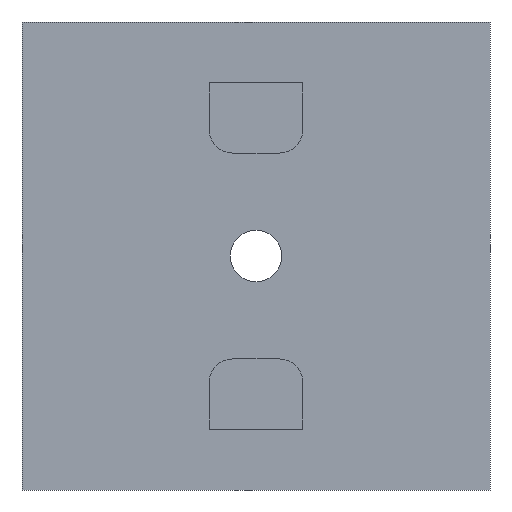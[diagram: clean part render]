
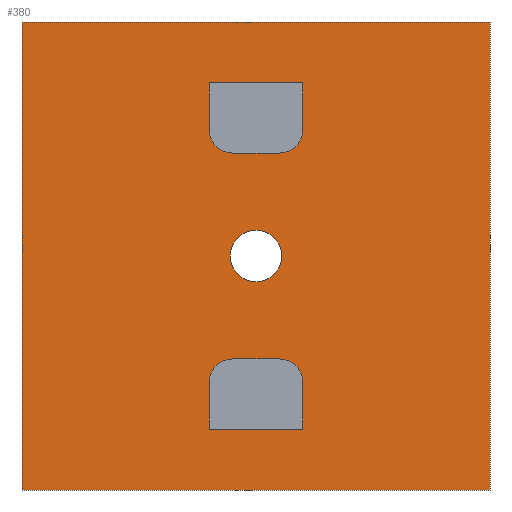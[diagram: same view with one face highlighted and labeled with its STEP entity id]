
A CAD part, front view. The second image highlights one B-rep face of the part: STEP entity #380.
In plain terms, the highlighted planar face has unit normal (0, -1, 0).
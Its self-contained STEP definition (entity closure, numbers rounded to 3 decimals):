
#15=FACE_BOUND('',#72,.T.);
#16=FACE_BOUND('',#73,.T.);
#17=FACE_BOUND('',#74,.T.);
#29=PLANE('',#425);
#50=FACE_OUTER_BOUND('',#71,.T.);
#71=EDGE_LOOP('',(#322,#323,#324,#325));
#72=EDGE_LOOP('',(#326,#327,#328,#329,#330,#331));
#73=EDGE_LOOP('',(#332,#333,#334,#335,#336,#337));
#74=EDGE_LOOP('',(#338));
#85=LINE('',#551,#126);
#91=LINE('',#568,#132);
#97=LINE('',#584,#138);
#102=LINE('',#599,#143);
#105=LINE('',#604,#146);
#106=LINE('',#606,#147);
#107=LINE('',#608,#148);
#108=LINE('',#610,#149);
#110=LINE('',#620,#151);
#111=LINE('',#622,#152);
#112=LINE('',#624,#153);
#113=LINE('',#625,#154);
#126=VECTOR('',#445,10.);
#132=VECTOR('',#461,10.);
#138=VECTOR('',#475,10.);
#143=VECTOR('',#490,10.);
#146=VECTOR('',#495,10.);
#147=VECTOR('',#498,10.);
#148=VECTOR('',#501,10.);
#149=VECTOR('',#504,10.);
#151=VECTOR('',#514,10.);
#152=VECTOR('',#515,10.);
#153=VECTOR('',#516,10.);
#154=VECTOR('',#517,10.);
#164=CIRCLE('',#402,0.5);
#166=CIRCLE('',#407,0.5);
#168=CIRCLE('',#411,0.5);
#170=CIRCLE('',#416,0.5);
#171=CIRCLE('',#423,0.55);
#175=VERTEX_POINT('',#541);
#176=VERTEX_POINT('',#543);
#178=VERTEX_POINT('',#549);
#182=VERTEX_POINT('',#561);
#183=VERTEX_POINT('',#563);
#184=VERTEX_POINT('',#567);
#187=VERTEX_POINT('',#574);
#188=VERTEX_POINT('',#576);
#190=VERTEX_POINT('',#582);
#194=VERTEX_POINT('',#594);
#195=VERTEX_POINT('',#598);
#196=VERTEX_POINT('',#602);
#197=VERTEX_POINT('',#612);
#199=VERTEX_POINT('',#618);
#200=VERTEX_POINT('',#619);
#201=VERTEX_POINT('',#621);
#202=VERTEX_POINT('',#623);
#209=EDGE_CURVE('',#175,#176,#164,.F.);
#213=EDGE_CURVE('',#175,#178,#85,.T.);
#219=EDGE_CURVE('',#182,#183,#166,.F.);
#221=EDGE_CURVE('',#184,#183,#91,.T.);
#225=EDGE_CURVE('',#187,#188,#168,.F.);
#229=EDGE_CURVE('',#187,#190,#97,.T.);
#235=EDGE_CURVE('',#194,#190,#170,.F.);
#236=EDGE_CURVE('',#195,#188,#102,.T.);
#239=EDGE_CURVE('',#194,#196,#105,.T.);
#240=EDGE_CURVE('',#196,#195,#106,.T.);
#241=EDGE_CURVE('',#178,#184,#107,.T.);
#242=EDGE_CURVE('',#182,#176,#108,.T.);
#243=EDGE_CURVE('',#197,#197,#171,.T.);
#246=EDGE_CURVE('',#199,#200,#110,.T.);
#247=EDGE_CURVE('',#200,#201,#111,.T.);
#248=EDGE_CURVE('',#202,#201,#112,.T.);
#249=EDGE_CURVE('',#199,#202,#113,.T.);
#322=ORIENTED_EDGE('',*,*,#246,.T.);
#323=ORIENTED_EDGE('',*,*,#247,.T.);
#324=ORIENTED_EDGE('',*,*,#248,.F.);
#325=ORIENTED_EDGE('',*,*,#249,.F.);
#326=ORIENTED_EDGE('',*,*,#236,.T.);
#327=ORIENTED_EDGE('',*,*,#225,.F.);
#328=ORIENTED_EDGE('',*,*,#229,.T.);
#329=ORIENTED_EDGE('',*,*,#235,.F.);
#330=ORIENTED_EDGE('',*,*,#239,.T.);
#331=ORIENTED_EDGE('',*,*,#240,.T.);
#332=ORIENTED_EDGE('',*,*,#241,.T.);
#333=ORIENTED_EDGE('',*,*,#221,.T.);
#334=ORIENTED_EDGE('',*,*,#219,.F.);
#335=ORIENTED_EDGE('',*,*,#242,.T.);
#336=ORIENTED_EDGE('',*,*,#209,.F.);
#337=ORIENTED_EDGE('',*,*,#213,.T.);
#338=ORIENTED_EDGE('',*,*,#243,.T.);
#380=ADVANCED_FACE('',(#50,#15,#16,#17),#29,.T.);
#402=AXIS2_PLACEMENT_3D('',#544,#438,#439);
#407=AXIS2_PLACEMENT_3D('',#564,#456,#457);
#411=AXIS2_PLACEMENT_3D('',#577,#468,#469);
#416=AXIS2_PLACEMENT_3D('',#596,#486,#487);
#423=AXIS2_PLACEMENT_3D('',#613,#507,#508);
#425=AXIS2_PLACEMENT_3D('',#617,#512,#513);
#438=DIRECTION('center_axis',(0.,1.,0.));
#439=DIRECTION('ref_axis',(-0.707,0.,-0.707));
#445=DIRECTION('',(0.,0.,1.));
#456=DIRECTION('center_axis',(0.,1.,0.));
#457=DIRECTION('ref_axis',(0.707,0.,-0.707));
#461=DIRECTION('',(0.,0.,-1.));
#468=DIRECTION('center_axis',(0.,1.,0.));
#469=DIRECTION('ref_axis',(-0.707,0.,0.707));
#475=DIRECTION('',(1.,0.,0.));
#486=DIRECTION('center_axis',(0.,1.,0.));
#487=DIRECTION('ref_axis',(0.707,0.,0.707));
#490=DIRECTION('',(0.,0.,1.));
#495=DIRECTION('',(0.,0.,-1.));
#498=DIRECTION('',(-1.,0.,0.));
#501=DIRECTION('',(1.,0.,0.));
#504=DIRECTION('',(-1.,0.,0.));
#507=DIRECTION('center_axis',(0.,1.,0.));
#508=DIRECTION('ref_axis',(1.,0.,0.));
#512=DIRECTION('center_axis',(0.,-1.,0.));
#513=DIRECTION('ref_axis',(1.,0.,0.));
#514=DIRECTION('',(1.,0.,0.));
#515=DIRECTION('',(0.,0.,1.));
#516=DIRECTION('',(1.,0.,0.));
#517=DIRECTION('',(0.,0.,1.));
#541=CARTESIAN_POINT('',(-1.,-5.25,7.7));
#543=CARTESIAN_POINT('',(-0.5,-5.25,7.2));
#544=CARTESIAN_POINT('Origin',(-0.5,-5.25,7.7));
#549=CARTESIAN_POINT('',(-1.,-5.25,8.7));
#551=CARTESIAN_POINT('',(-1.,-5.25,4.35));
#561=CARTESIAN_POINT('',(0.5,-5.25,7.2));
#563=CARTESIAN_POINT('',(1.,-5.25,7.7));
#564=CARTESIAN_POINT('Origin',(0.5,-5.25,7.7));
#567=CARTESIAN_POINT('',(1.,-5.25,8.7));
#568=CARTESIAN_POINT('',(1.,-5.25,3.6));
#574=CARTESIAN_POINT('',(-0.5,-5.25,2.8));
#576=CARTESIAN_POINT('',(-1.,-5.25,2.3));
#577=CARTESIAN_POINT('Origin',(-0.5,-5.25,2.3));
#582=CARTESIAN_POINT('',(0.5,-5.25,2.8));
#584=CARTESIAN_POINT('',(-2.,-5.25,2.8));
#594=CARTESIAN_POINT('',(1.,-5.25,2.3));
#596=CARTESIAN_POINT('Origin',(0.5,-5.25,2.3));
#598=CARTESIAN_POINT('',(-1.,-5.25,1.3));
#599=CARTESIAN_POINT('',(-1.,-5.25,1.4));
#602=CARTESIAN_POINT('',(1.,-5.25,1.3));
#604=CARTESIAN_POINT('',(1.,-5.25,0.65));
#606=CARTESIAN_POINT('',(-3.,-5.25,1.3));
#608=CARTESIAN_POINT('',(-2.,-5.25,8.7));
#610=CARTESIAN_POINT('',(-3.,-5.25,7.2));
#612=CARTESIAN_POINT('',(-0.55,-5.25,5.));
#613=CARTESIAN_POINT('Origin',(0.,-5.25,5.));
#617=CARTESIAN_POINT('Origin',(-5.,-5.25,0.));
#618=CARTESIAN_POINT('',(-5.,-5.25,0.));
#619=CARTESIAN_POINT('',(5.,-5.25,0.));
#620=CARTESIAN_POINT('',(-5.,-5.25,0.));
#621=CARTESIAN_POINT('',(5.,-5.25,10.));
#622=CARTESIAN_POINT('',(5.,-5.25,0.));
#623=CARTESIAN_POINT('',(-5.,-5.25,10.));
#624=CARTESIAN_POINT('',(-5.,-5.25,10.));
#625=CARTESIAN_POINT('',(-5.,-5.25,0.));
